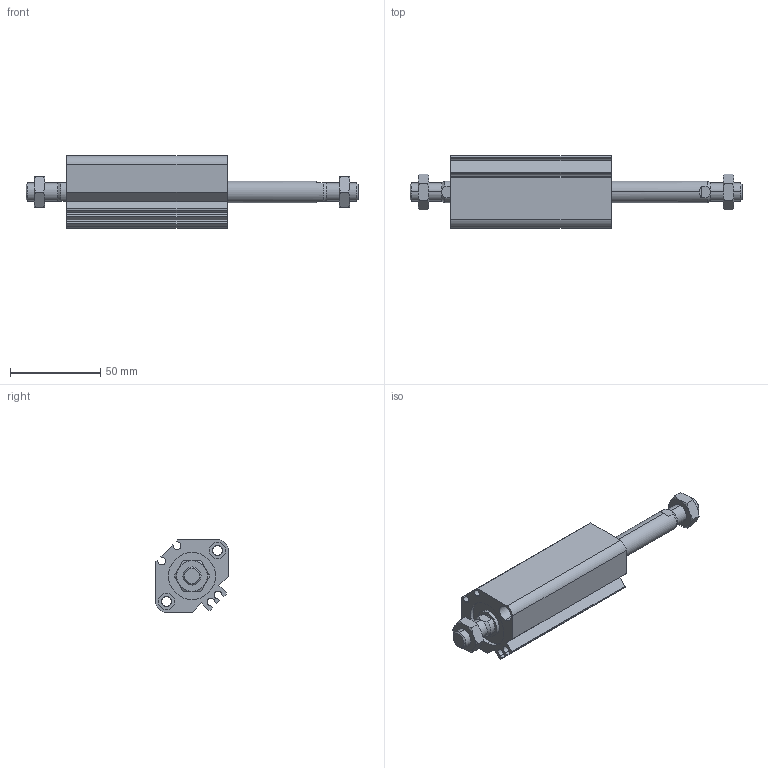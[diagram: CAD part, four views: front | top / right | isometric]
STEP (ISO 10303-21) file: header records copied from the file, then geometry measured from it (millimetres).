
FILE_DESCRIPTION (( 'STEP AP203' ), '1' );
FILE_NAME ('CCMB25-50M-P.STEP', '2020-08-10T11:30:25', ( '' ), ( '' ), 'SwSTEP 2.0', 'SolidWorks 2019', '' );
FILE_SCHEMA (( 'CONFIG_CONTROL_DESIGN' ));
Length unit declared in the file: millimetre
Products named in the file (1): CCMB25-50M-P
Bounding box: 184 x 40 x 40 mm (x, y, z)
Volume: 105175 mm3; surface area: 39842.9 mm2
Topology: 4 solids, 4 shells, 166 faces, 384 edges, 240 vertices
Faces by surface type: plane 66, cylinder 56, cone 44
Entity records: 5403 total; most frequent: CARTESIAN_POINT 1543, DIRECTION 806, ORIENTED_EDGE 768, EDGE_CURVE 384, AXIS2_PLACEMENT_3D 319, VERTEX_POINT 240, EDGE_LOOP 190, LINE 168
